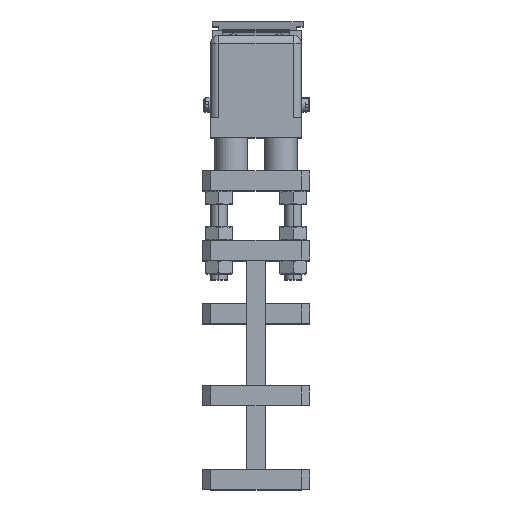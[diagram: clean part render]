
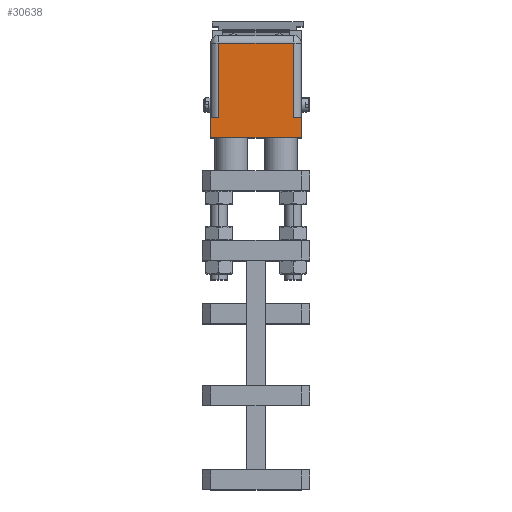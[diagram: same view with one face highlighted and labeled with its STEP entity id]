
A CAD part, top view. The second image highlights one B-rep face of the part: STEP entity #30638.
In plain terms, the highlighted planar face has unit normal (0, 0, 1).
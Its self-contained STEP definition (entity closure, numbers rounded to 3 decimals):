
#93 = LINE ( 'NONE', #23950, #25774 ) ;
#183 = CARTESIAN_POINT ( 'NONE',  ( 16.137, 164.12, 55.708 ) ) ;
#347 = CARTESIAN_POINT ( 'NONE',  ( 71.137, 410.341, 55.708 ) ) ;
#486 = DIRECTION ( 'NONE',  ( 0., -1., 0. ) ) ;
#1177 = LINE ( 'NONE', #17904, #22617 ) ;
#1504 = EDGE_CURVE ( 'NONE', #19821, #15492, #16524, .T. ) ;
#2237 = VECTOR ( 'NONE', #28691, 1000. ) ;
#2564 = PLANE ( 'NONE',  #18069 ) ;
#3055 = VECTOR ( 'NONE', #24394, 1000. ) ;
#3188 = DIRECTION ( 'NONE',  ( 0., -1., 0. ) ) ;
#3359 = CARTESIAN_POINT ( 'NONE',  ( 66.137, 164.12, 55.708 ) ) ;
#3803 = DIRECTION ( 'NONE',  ( 1., 0., 0. ) ) ;
#3862 = EDGE_CURVE ( 'NONE', #16385, #12165, #1177, .T. ) ;
#4350 = VERTEX_POINT ( 'NONE', #5793 ) ;
#5508 = VERTEX_POINT ( 'NONE', #11954 ) ;
#5793 = CARTESIAN_POINT ( 'NONE',  ( 21.137, 209.12, 55.708 ) ) ;
#5867 = EDGE_CURVE ( 'NONE', #15492, #4350, #14245, .T. ) ;
#6498 = VECTOR ( 'NONE', #19192, 1000. ) ;
#7198 = CARTESIAN_POINT ( 'NONE',  ( 21.137, 164.12, 55.708 ) ) ;
#7651 = CARTESIAN_POINT ( 'NONE',  ( 66.137, 209.12, 55.708 ) ) ;
#7660 = DIRECTION ( 'NONE',  ( 0., 0., 1. ) ) ;
#8001 = ORIENTED_EDGE ( 'NONE', *, *, #18814, .T. ) ;
#8326 = EDGE_CURVE ( 'NONE', #19821, #5508, #26707, .T. ) ;
#9463 = LINE ( 'NONE', #9906, #2237 ) ;
#9906 = CARTESIAN_POINT ( 'NONE',  ( 71.137, 152.12, 55.708 ) ) ;
#10041 = VECTOR ( 'NONE', #19237, 1000. ) ;
#10532 = EDGE_LOOP ( 'NONE', ( #17830, #17910, #18120, #28801, #12379, #8001, #12620, #18397 ) ) ;
#11907 = CARTESIAN_POINT ( 'NONE',  ( 16.137, 209.12, 55.708 ) ) ;
#11954 = CARTESIAN_POINT ( 'NONE',  ( 71.137, 164.12, 55.708 ) ) ;
#12165 = VERTEX_POINT ( 'NONE', #7198 ) ;
#12196 = VERTEX_POINT ( 'NONE', #12308 ) ;
#12308 = CARTESIAN_POINT ( 'NONE',  ( 71.137, 152.12, 55.708 ) ) ;
#12379 = ORIENTED_EDGE ( 'NONE', *, *, #3862, .F. ) ;
#12620 = ORIENTED_EDGE ( 'NONE', *, *, #25385, .F. ) ;
#13352 = CARTESIAN_POINT ( 'NONE',  ( 16.137, 152.12, 55.708 ) ) ;
#14245 = LINE ( 'NONE', #11907, #6498 ) ;
#14456 = CARTESIAN_POINT ( 'NONE',  ( 71.137, 164.12, 55.708 ) ) ;
#15492 = VERTEX_POINT ( 'NONE', #7651 ) ;
#15532 = EDGE_CURVE ( 'NONE', #4350, #12165, #93, .T. ) ;
#15656 = VECTOR ( 'NONE', #21178, 1000. ) ;
#16385 = VERTEX_POINT ( 'NONE', #183 ) ;
#16524 = LINE ( 'NONE', #18684, #15656 ) ;
#17830 = ORIENTED_EDGE ( 'NONE', *, *, #8326, .F. ) ;
#17904 = CARTESIAN_POINT ( 'NONE',  ( 71.137, 164.12, 55.708 ) ) ;
#17910 = ORIENTED_EDGE ( 'NONE', *, *, #1504, .T. ) ;
#18069 = AXIS2_PLACEMENT_3D ( 'NONE', #21943, #7660, #3188 ) ;
#18120 = ORIENTED_EDGE ( 'NONE', *, *, #5867, .T. ) ;
#18397 = ORIENTED_EDGE ( 'NONE', *, *, #19528, .F. ) ;
#18684 = CARTESIAN_POINT ( 'NONE',  ( 66.137, 219.12, 55.708 ) ) ;
#18814 = EDGE_CURVE ( 'NONE', #16385, #22020, #19236, .T. ) ;
#19192 = DIRECTION ( 'NONE',  ( -1., 0., 0. ) ) ;
#19236 = LINE ( 'NONE', #26067, #22978 ) ;
#19237 = DIRECTION ( 'NONE',  ( 0., -1., 0. ) ) ;
#19528 = EDGE_CURVE ( 'NONE', #5508, #12196, #29739, .T. ) ;
#19821 = VERTEX_POINT ( 'NONE', #3359 ) ;
#21178 = DIRECTION ( 'NONE',  ( 0., 1., 0. ) ) ;
#21943 = CARTESIAN_POINT ( 'NONE',  ( 71.137, 410.341, 55.708 ) ) ;
#22020 = VERTEX_POINT ( 'NONE', #13352 ) ;
#22617 = VECTOR ( 'NONE', #3803, 1000. ) ;
#22978 = VECTOR ( 'NONE', #486, 1000. ) ;
#23792 = DIRECTION ( 'NONE',  ( 0., -1., 0. ) ) ;
#23950 = CARTESIAN_POINT ( 'NONE',  ( 21.137, 219.12, 55.708 ) ) ;
#24112 = FACE_OUTER_BOUND ( 'NONE', #10532, .T. ) ;
#24394 = DIRECTION ( 'NONE',  ( 1., 0., 0. ) ) ;
#25385 = EDGE_CURVE ( 'NONE', #12196, #22020, #9463, .T. ) ;
#25774 = VECTOR ( 'NONE', #23792, 1000. ) ;
#26067 = CARTESIAN_POINT ( 'NONE',  ( 16.137, 410.341, 55.708 ) ) ;
#26707 = LINE ( 'NONE', #14456, #3055 ) ;
#28691 = DIRECTION ( 'NONE',  ( -1., 0., 0. ) ) ;
#28801 = ORIENTED_EDGE ( 'NONE', *, *, #15532, .T. ) ;
#29739 = LINE ( 'NONE', #347, #10041 ) ;
#30638 = ADVANCED_FACE ( 'NONE', ( #24112 ), #2564, .T. ) ;
